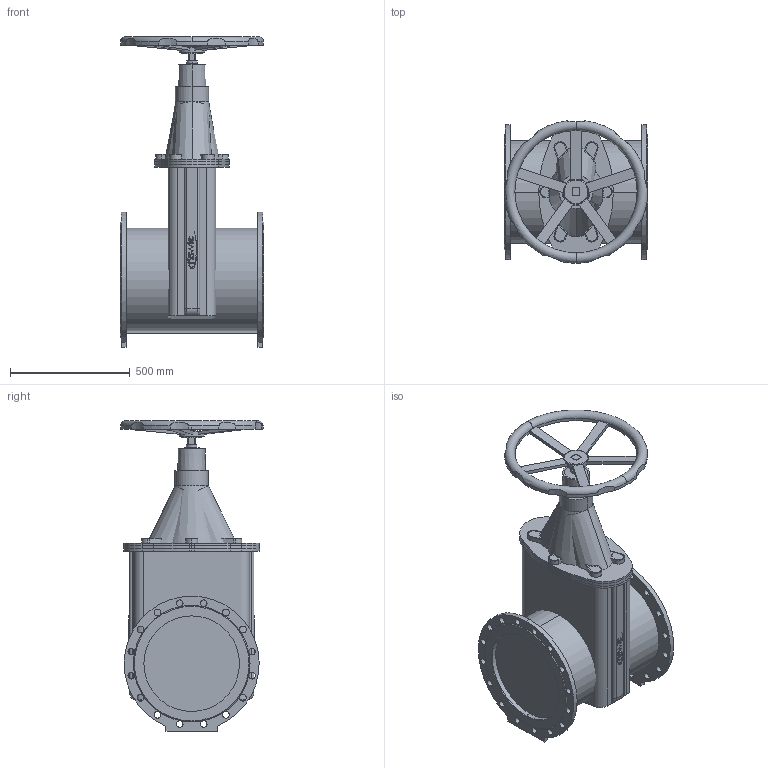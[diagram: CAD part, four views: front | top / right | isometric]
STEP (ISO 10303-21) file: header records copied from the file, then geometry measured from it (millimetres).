
FILE_DESCRIPTION(('STEP AP214'),'1');
FILE_NAME('S:/EK/USER/CAT6/3DHomepage/4700E2/4700E2-PN10-DN400-HANDRAD.STP','2012-04-23T14:49:58',(' '),(' '),'Spatial InterOp 3D',' ',' ');
FILE_SCHEMA(('automotive_design'));
Length unit declared in the file: millimetre
Products named in the file (57): 3D-Objekt
Bounding box: 600 x 595.38 x 1298.5 mm (x, y, z)
Volume: 171466568.4 mm3; surface area: 5340116.2 mm2
Topology: 57 solids, 57 shells, 584 faces, 1405 edges, 937 vertices
Faces by surface type: plane 286, cylinder 270, cone 14, torus 10, bspline 4
Entity records: 23681 total; most frequent: CARTESIAN_POINT 3341, DIRECTION 3266, ORIENTED_EDGE 2810, EDGE_CURVE 1405, AXIS2_PLACEMENT_3D 1234, VERTEX_POINT 937, LINE 798, VECTOR 798
